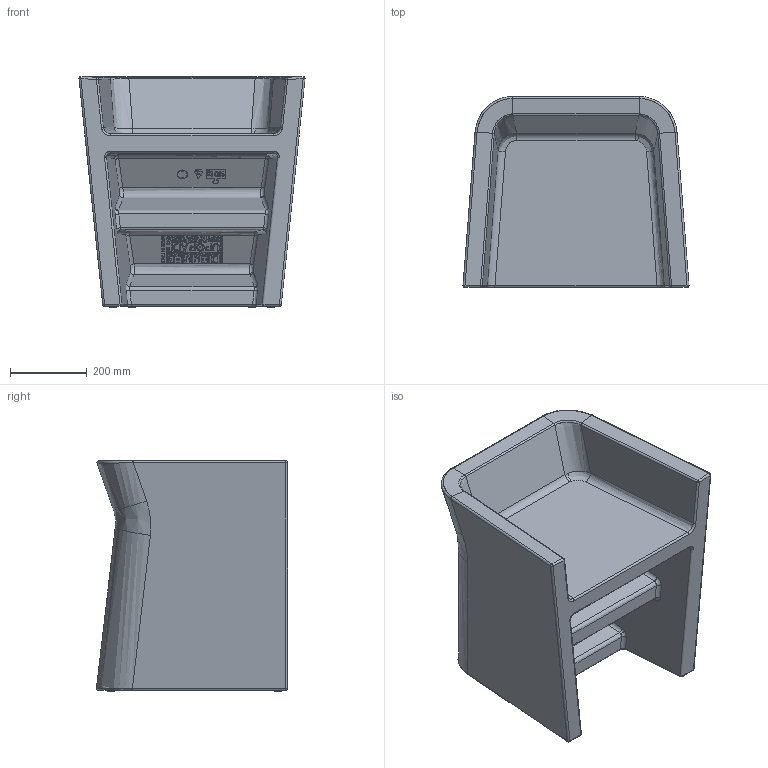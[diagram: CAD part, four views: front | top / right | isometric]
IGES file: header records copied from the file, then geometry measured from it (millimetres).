
Start section: 3D InterOp IGES (v. 2017 1.0.2), Spatial Corp. Copyright (c) 1999-2016.
Global section: file name: UPPZ10PXX.igs; native system: Spatial Corp.; preprocessor: 3D InterOp GENERIC/IGES 3.0; author: Noname; organization: Noname; date: 20180327.081935; units: millimetre
Bounding box: 590.13 x 499.37 x 602.1 mm (x, y, z)
Surface area: 4252846 mm2 (no closed solid volume)
Topology: 0 solids, 0 shells, 2924 faces, 16834 edges, 16828 vertices
Faces by surface type: extrusion 1477, bspline 1255, revolution 167, offset 25
